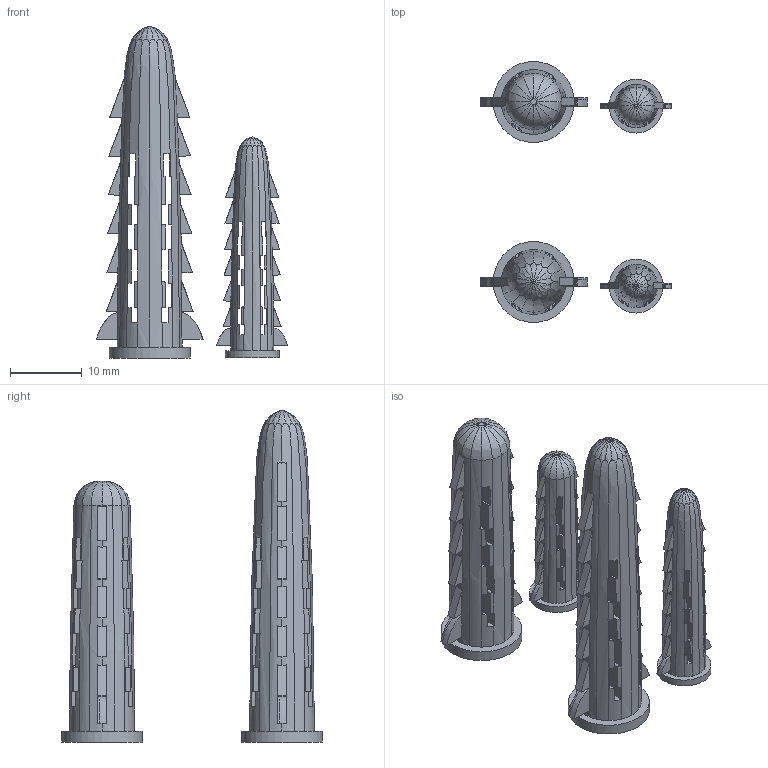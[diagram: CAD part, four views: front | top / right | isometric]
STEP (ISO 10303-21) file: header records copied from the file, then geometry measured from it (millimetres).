
FILE_DESCRIPTION(/* description */ (''),/* implementation_level */ '2;1');
FILE_NAME(/* name */ 'D:/Briefcase/rawl_plug/WallPlug.step',/* time_stamp */ '2021-08-25T20:11:27+01:00',/* author */ (''),/* organization */ (''),/* preprocessor_version */ 'ST-DEVELOPER v18.1',/* originating_system */ 'Autodesk Translation Framework v10.9.0.1377',/* authorisation */ '');
FILE_SCHEMA (('AUTOMOTIVE_DESIGN { 1 0 10303 214 3 1 1 }'));
Products named in the file (1): RawlPlugMk2
Bounding box: 26.58 x 36.25 x 46.11 mm (x, y, z)
Volume: 4001 mm3; surface area: 6551.6 mm2
Topology: 4 solids, 4 shells, 764 faces, 2462 edges, 1686 vertices
Faces by surface type: plane 535, bspline 209, cylinder 20
Full cylindrical faces by diameter (mm): 7.5 x2, 11.25 x2
Entity records: 59148 total; most frequent: CARTESIAN_POINT 41503, ORIENTED_EDGE 4924, EDGE_CURVE 2462, DIRECTION 1819, B_SPLINE_CURVE_WITH_KNOTS 1764, VERTEX_POINT 1686, EDGE_LOOP 776, FACE_OUTER_BOUND 764
